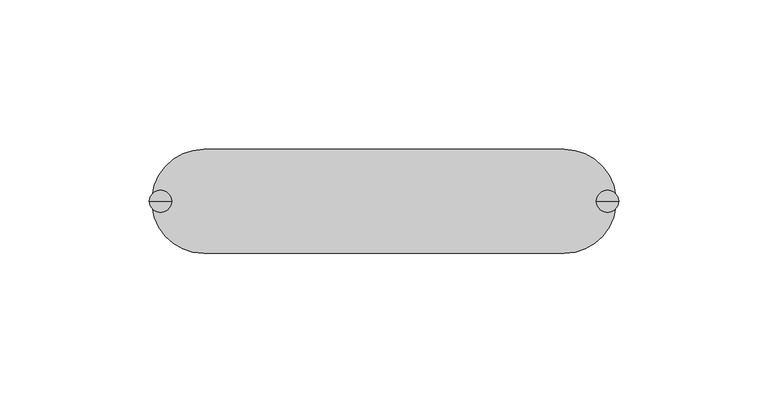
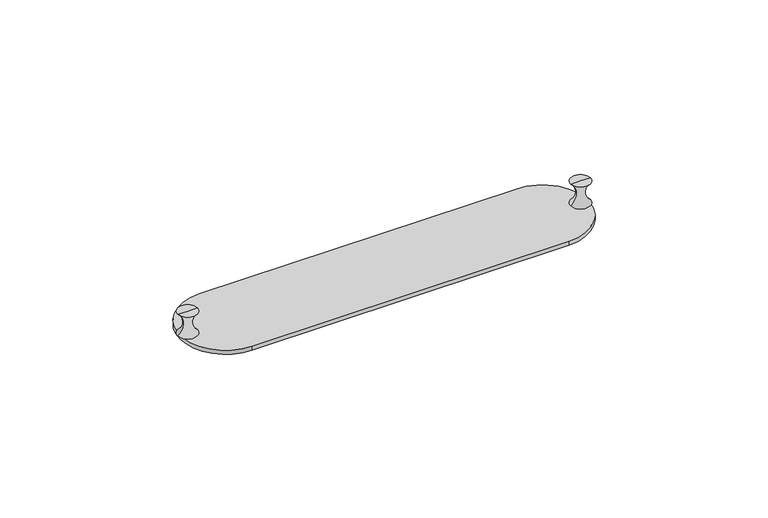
"""IFC4 building model written with IfcOpenShell, lengths in millimetres: electric appliance geometry, Adapter_Module-Fiber-Corning-Plug_&_Play : 12 F, Multimode OM3."""

from ifc_helpers import new_model, si_unit, point, frame, frame_2d, origin, origin_with_axes, place, context, project, spatial, polyline, circle_curve, ellipse_curve, trimmed, segment, composite_curve, outline, extrude, source, transform, mapped, element, save
from ifc_brep_helpers import plane_surface, revolved_surface, advanced_brep


def electric_appliance_788d60a8(model_context):
    return source(origin(), model_context, "Body", "SolidModel", [
        advanced_brep(
        [(-74.8027108, 0.0, 1.6002), (-78.5094225, 0.0, 1.6002), (-71.0959991, 0.0, 1.6002), (-71.0959991, 0.0, 10.33145), (-78.5094225, 0.0, 10.33145), (-74.8027108, 0.0, 10.33145)],
        [
            (0, 1),
            (1, 2, circle_curve(frame((-74.8027108, 0.0, 1.6002), z_axis=(0.0, 0.0, -1.0), x_axis=(-1.0, 0.0, 0.0)), 3.7067117)),
            (2, 0),
            (2, 1, circle_curve(frame((-74.8027108, 0.0, 1.6002), z_axis=(0.0, 0.0, -1.0), x_axis=(-1.0, 0.0, 0.0)), 3.7067117)),
            (3, 4, circle_curve(frame((-74.8027108, 0.0, 10.33145), z_axis=(0.0, 0.0, 1.0), x_axis=(-1.0, 0.0, 0.0)), 3.7067117)),
            (4, 5),
            (5, 3),
            (4, 3, circle_curve(frame((-74.8027108, 0.0, 10.33145), z_axis=(0.0, 0.0, 1.0), x_axis=(-1.0, 0.0, 0.0)), 3.7067117)),
            (1, 4, circle_curve(frame((-81.9464608, 0.0, 5.965825), z_axis=(0.0, -1.0, 0.0), x_axis=(-1.0, 0.0, 0.0)), 5.55625)),
            (3, 2, circle_curve(frame((-67.6589608, 0.0, 5.965825), z_axis=(0.0, -1.0, 0.0), x_axis=(1.0, 0.0, 0.0)), 5.55625)),
        ],
        [
            plane_surface(frame((-74.8027108, 0.0, 1.6002), z_axis=(0.0, 0.0, -1.0), x_axis=(-1.0, 0.0, 0.0))),
            plane_surface(frame((-74.8027108, 0.0, 10.33145), z_axis=(0.0, 0.0, 1.0), x_axis=(-1.0, 0.0, 0.0))),
            revolved_surface(trimmed(ellipse_curve(frame((-81.9464608, 0.0, 5.965825), z_axis=(0.0, 1.0, 0.0), x_axis=(-1.0, 0.0, 0.0)), 5.55625, 5.55625), [point((-78.5094225, 0.0, 10.33145))], [point((-78.5094225, 0.0, 1.6002))], True, "CARTESIAN"), (-74.8027108, 0.0, 1.0977551), (0.0, 0.0, -1.0)),
        ],
        [
            (0, [[1, 2, 3]]),
            (0, [[-3, 4, -1]]),
            (1, [[5, 6, 7]]),
            (1, [[8, -7, -6]]),
            (2, [[-2, 9, -5, 10]]),
            (2, [[-4, -10, -8, -9]]),
        ],
    ),
        advanced_brep(
        [(71.0959991, 0.0, 10.33145), (78.5094225, 0.0, 10.33145), (78.5094225, 0.0, 1.6002), (71.0959991, 0.0, 1.6002), (74.8027108, 0.0, 10.33145), (74.8027108, 0.0, 1.6002)],
        [
            (0, 1, circle_curve(frame((74.8027108, 0.0, 10.33145), z_axis=(0.0, 0.0, -1.0), x_axis=(1.0, 0.0, 0.0)), 3.7067117)),
            (1, 2, circle_curve(frame((81.9464608, 0.0, 5.965825), z_axis=(0.0, -1.0, 0.0), x_axis=(1.0, 0.0, 0.0)), 5.55625)),
            (2, 3, circle_curve(frame((74.8027108, 0.0, 1.6002), z_axis=(0.0, 0.0, 1.0), x_axis=(1.0, 0.0, 0.0)), 3.7067117)),
            (3, 0, circle_curve(frame((67.6589608, 0.0, 5.965825), z_axis=(0.0, -1.0, 0.0), x_axis=(-1.0, 0.0, 0.0)), 5.55625)),
            (1, 0, circle_curve(frame((74.8027108, 0.0, 10.33145), z_axis=(0.0, 0.0, -1.0), x_axis=(1.0, 0.0, 0.0)), 3.7067117)),
            (3, 2, circle_curve(frame((74.8027108, 0.0, 1.6002), z_axis=(0.0, 0.0, 1.0), x_axis=(1.0, 0.0, 0.0)), 3.7067117)),
            (4, 1),
            (0, 4),
            (2, 5),
            (5, 3),
        ],
        [
            revolved_surface(trimmed(ellipse_curve(frame((81.9464608, 0.0, 5.965825), z_axis=(0.0, 1.0, 0.0), x_axis=(1.0, 0.0, 0.0)), 5.55625, 5.55625), [point((78.5094225, 0.0, 1.6002))], [point((78.5094225, 0.0, 10.33145))], True, "CARTESIAN"), (74.8027108, 0.0, 1.0977551), (0.0, 0.0, 1.0)),
            plane_surface(frame((74.8027108, 0.0, 10.33145), z_axis=(0.0, 0.0, 1.0), x_axis=(1.0, 0.0, 0.0))),
            plane_surface(frame((74.8027108, 0.0, 1.6002), z_axis=(0.0, 0.0, -1.0), x_axis=(1.0, 0.0, 0.0))),
        ],
        [
            (0, [[1, 2, 3, 4]]),
            (0, [[5, -4, 6, -2]]),
            (1, [[7, -1, 8]]),
            (1, [[-8, -5, -7]]),
            (2, [[-3, 9, 10]]),
            (2, [[-6, -10, -9]]),
        ],
    ),
        extrude(outline(composite_curve([segment(trimmed(circle_curve(frame_2d((60.325, 0.0)), 17.3627616), [point((60.325, 17.3627616))], [point((60.325, -17.3627616))], False, "CARTESIAN"), True, "CONTINUOUS"), segment(polyline([(60.325, -17.3627616), (-60.325, -17.3627616)]), True, "CONTINUOUS"), segment(trimmed(circle_curve(frame_2d((-60.325, 0.0)), 17.3627616), [point((-60.325, -17.3627616))], [point((-60.325, 17.3627616))], False, "CARTESIAN"), True, "CONTINUOUS"), segment(polyline([(-60.325, 17.3627616), (60.325, 17.3627616)]), True, "CONTINUOUS")], self_intersect=False)), origin_with_axes(), (0.0, 0.0, 1.0), 1.6002),
    ])


if __name__ == "__main__":
    model = new_model("IFC4")
    model_context = context("Model", 3, world=origin())
    ifc_project = project(units=[si_unit("LENGTHUNIT", "METRE", prefix="MILLI")], contexts=[model_context])
    site = spatial("IfcSite", under=ifc_project)
    building = spatial("IfcBuilding", under=site)
    placement = place(None, origin())
    electric_appliance_shape = electric_appliance_788d60a8(model_context)
    element("IfcElectricAppliance", 1, ObjectType="Adapter_Module-Fiber-Corning-Plug_&_Play : 12 F, Multimode OM3", at=placement, inside=building, context=model_context, shape_type="MappedRepresentation", body=[
        mapped(electric_appliance_shape, transform((0.0, 0.0, 0.0), x_axis=(1.0, 0.0, 0.0), y_axis=(0.0, 1.0, 0.0), z_axis=(0.0, 0.0, 1.0))),
    ])
    save(model, "model.ifc")
